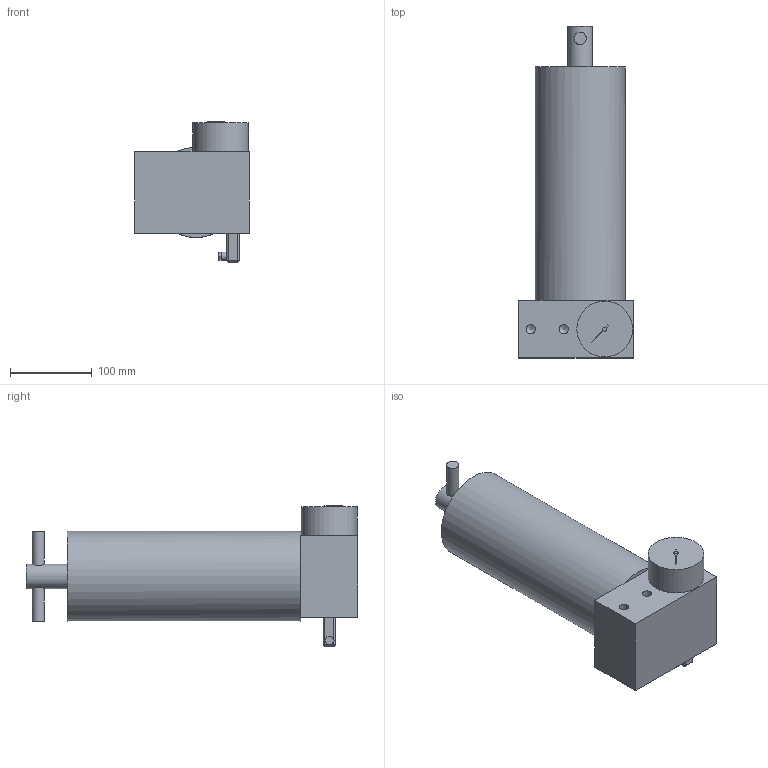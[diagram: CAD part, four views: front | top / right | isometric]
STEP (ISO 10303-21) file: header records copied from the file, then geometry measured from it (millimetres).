
FILE_DESCRIPTION (( 'STEP AP214' ), '1' );
FILE_NAME ('4120075006_HV-1_Step.STEP', '2015-10-26T09:59:13', ( '' ), ( '' ), 'SwSTEP 2.0', 'SolidWorks 2014', '' );
FILE_SCHEMA (( 'AUTOMOTIVE_DESIGN' ));
Length unit declared in the file: millimetre
Products named in the file (1): 4120075006_HV-1_Step
Bounding box: 140 x 405 x 171 mm (x, y, z)
Volume: 3867290.4 mm3; surface area: 181821.7 mm2
Topology: 3 solids, 3 shells, 64 faces, 142 edges, 83 vertices
Faces by surface type: plane 40, cylinder 18, bspline 4, cone 2
Full cylindrical faces by diameter (mm): 10 x1, 11.445 x2, 15 x2, 30 x1, 68 x1, 110 x1
Entity records: 1871 total; most frequent: CARTESIAN_POINT 500, DIRECTION 283, ORIENTED_EDGE 242, EDGE_CURVE 121, AXIS2_PLACEMENT_3D 103, EDGE_LOOP 79, VERTEX_POINT 78, VECTOR 77
